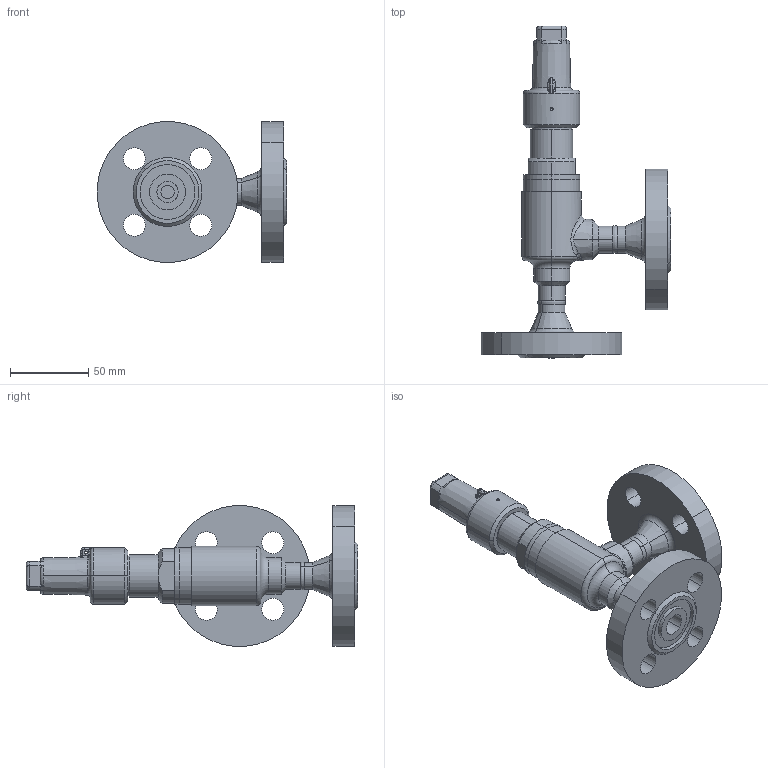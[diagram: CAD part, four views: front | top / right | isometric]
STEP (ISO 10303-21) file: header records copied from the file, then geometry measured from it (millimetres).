
FILE_DESCRIPTION (( 'STEP AP214' ), '1' );
FILE_NAME ('UVAA 41220c08-DN10_DIN-FL.STEP', '2010-09-13T05:41:57', ( 'Eckhard Grams' ), ( 'AWP Kälte Klima Armaturen GmbH' ), 'SwSTEP 2.0', 'SolidWorks 2002296', '' );
FILE_SCHEMA (( 'AUTOMOTIVE_DESIGN' ));
Length unit declared in the file: millimetre
Products named in the file (8): UVAA 41220c08-DN10_DIN-FL; Kappe 36302-10_DN6-15 (M27x1)_Standard; Deckel 44353-08-DN10-15_PS40_Standard; Geh,kpl 41220e08-DN10_DIN-FL_PS40_Standard; Gehäuse41200E08-DN10_PS40_R1_Standard; Flansch-DIN2635-Nut_PS40_DIN-Flansch-DN010_PS40-Nut; bead Geh.kpl 41220-08-2_Standard; bead Geh.kpl 41220-08-1_Standard
Assembly tree (8 placements, depth 3):
  UVAA 41220c08-DN10_DIN-FL
    Geh,kpl 41220e08-DN10_DIN-FL_PS40_Standard
      Flansch-DIN2635-Nut_PS40_DIN-Flansch-DN010_PS40-Nut  x2
      bead Geh.kpl 41220-08-1_Standard
      Gehäuse41200E08-DN10_PS40_R1_Standard
      bead Geh.kpl 41220-08-2_Standard
    Kappe 36302-10_DN6-15 (M27x1)_Standard
    Deckel 44353-08-DN10-15_PS40_Standard
Bounding box: 120.83 x 211.75 x 89.66 mm (x, y, z)
Volume: 269292.8 mm3; surface area: 77520.7 mm2
Topology: 7 solids, 7 shells, 278 faces, 625 edges, 378 vertices
Faces by surface type: cylinder 113, cone 54, plane 52, torus 32, bspline 27
Entity records: 22383 total; most frequent: CARTESIAN_POINT 16042, DIRECTION 1187, ORIENTED_EDGE 1106, EDGE_CURVE 553, AXIS2_PLACEMENT_3D 510, VERTEX_POINT 332, EDGE_LOOP 283, CIRCLE 279
